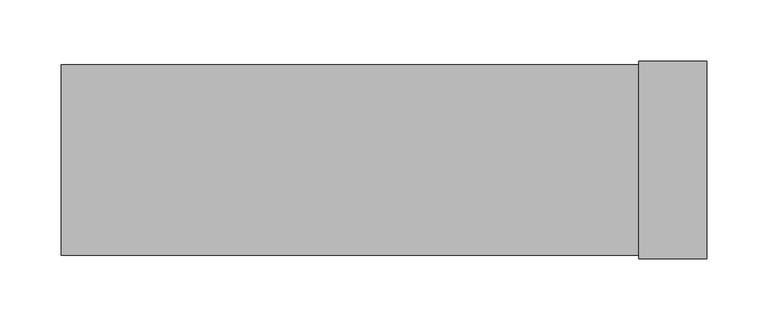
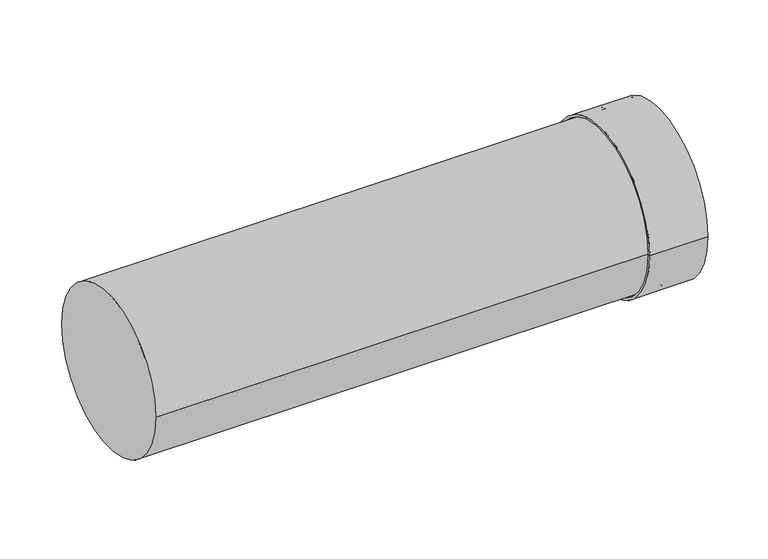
"""IFC4 building model written with IfcOpenShell, lengths in millimetres: duct fitting geometry, NLRS_57_DUF_UN_extension EPS_M&G : ø125 - ø200."""

from ifc_helpers import new_model, si_unit, point, frame, origin, origin_2d, place, context, project, spatial, polyline, circle_curve, trimmed, segment, composite_curve, outline, extrude, source, transform, mapped, element, save
from ifc_brep_helpers import plane_surface, cylinder_surface, revolved_surface, advanced_brep


def duct_fitting_8542f466(model_context):
    return source(origin(), model_context, "Body", "SolidModel", [
        advanced_brep(
        [(473.0, -81.0, 0.0), (473.0, 81.0, 0.0), (529.0, 81.0, 0.0), (529.0, -81.0, 0.0), (473.0, -79.0, 0.0), (473.0, 79.0, 0.0), (500.0, -79.0, 0.0), (500.0, 79.0, 0.0), (500.0, -77.0, 0.0), (500.0, 77.0, 0.0), (502.0, -79.0, 0.0), (502.0, 79.0, 0.0), (502.0, 77.0, 0.0), (502.0, -77.0, 0.0), (529.0, -79.0, 0.0), (529.0, 79.0, 0.0)],
        [
            (0, 1, circle_curve(frame((473.0, 0.0, 0.0), z_axis=(1.0, 0.0, 0.0), x_axis=(0.0, 1.0, 0.0)), 81.0)),
            (1, 2),
            (2, 3, circle_curve(frame((529.0, 0.0, 0.0), z_axis=(-1.0, 0.0, 0.0), x_axis=(0.0, 1.0, 0.0)), 81.0)),
            (3, 0),
            (1, 0, circle_curve(frame((473.0, 0.0, 0.0), z_axis=(1.0, 0.0, 0.0), x_axis=(0.0, 1.0, 0.0)), 81.0)),
            (3, 2, circle_curve(frame((529.0, 0.0, 0.0), z_axis=(-1.0, 0.0, 0.0), x_axis=(0.0, 1.0, 0.0)), 81.0)),
            (4, 5, circle_curve(frame((473.0, 0.0, 0.0), z_axis=(1.0, 0.0, 0.0), x_axis=(0.0, 1.0, 0.0)), 79.0)),
            (5, 1),
            (0, 4),
            (5, 4, circle_curve(frame((473.0, 0.0, 0.0), z_axis=(1.0, 0.0, 0.0), x_axis=(0.0, 1.0, 0.0)), 79.0)),
            (6, 7, circle_curve(frame((500.0, 0.0, 0.0), z_axis=(1.0, 0.0, 0.0), x_axis=(0.0, 1.0, 0.0)), 79.0)),
            (7, 5),
            (4, 6),
            (7, 6, circle_curve(frame((500.0, 0.0, 0.0), z_axis=(1.0, 0.0, 0.0), x_axis=(0.0, 1.0, 0.0)), 79.0)),
            (8, 9, circle_curve(frame((500.0, 0.0, 0.0), z_axis=(1.0, 0.0, 0.0), x_axis=(0.0, 1.0, 0.0)), 77.0)),
            (9, 7),
            (6, 8),
            (9, 8, circle_curve(frame((500.0, 0.0, 0.0), z_axis=(1.0, 0.0, 0.0), x_axis=(0.0, 1.0, 0.0)), 77.0)),
            (10, 11, circle_curve(frame((502.0, 0.0, 0.0), z_axis=(1.0, 0.0, 0.0), x_axis=(0.0, 1.0, 0.0)), 79.0)),
            (11, 12),
            (12, 13, circle_curve(frame((502.0, 0.0, 0.0), z_axis=(-1.0, 0.0, 0.0), x_axis=(0.0, 1.0, 0.0)), 77.0)),
            (13, 10),
            (11, 10, circle_curve(frame((502.0, 0.0, 0.0), z_axis=(1.0, 0.0, 0.0), x_axis=(0.0, 1.0, 0.0)), 79.0)),
            (13, 12, circle_curve(frame((502.0, 0.0, 0.0), z_axis=(-1.0, 0.0, 0.0), x_axis=(0.0, 1.0, 0.0)), 77.0)),
            (14, 15, circle_curve(frame((529.0, 0.0, 0.0), z_axis=(1.0, 0.0, 0.0), x_axis=(0.0, 1.0, 0.0)), 79.0)),
            (15, 11),
            (10, 14),
            (15, 14, circle_curve(frame((529.0, 0.0, 0.0), z_axis=(1.0, 0.0, 0.0), x_axis=(0.0, 1.0, 0.0)), 79.0)),
            (2, 15),
            (14, 3),
            (12, 9),
            (8, 13),
        ],
        [
            cylinder_surface(frame((2476.5, 0.0, 0.0), z_axis=(-1.0, 0.0, 0.0), x_axis=(0.0, 1.0, 0.0)), 81.0),
            plane_surface(frame((473.0, 0.0, 0.0), z_axis=(-1.0, 0.0, 0.0), x_axis=(0.0, 1.0, 0.0))),
            revolved_surface(polyline([(473.0, 79.0, 0.0), (500.0, 79.0, 0.0)]), (2476.5, 0.0, 0.0), (-1.0, 0.0, 0.0)),
            plane_surface(frame((500.0, 0.0, 0.0), z_axis=(-1.0, 0.0, 0.0), x_axis=(0.0, 1.0, 0.0))),
            plane_surface(frame((502.0, 0.0, 0.0), z_axis=(1.0, 0.0, 0.0), x_axis=(0.0, 1.0, 0.0))),
            revolved_surface(polyline([(502.0, 79.0, 0.0), (529.0, 79.0, 0.0)]), (2476.5, 0.0, 0.0), (-1.0, 0.0, 0.0)),
            plane_surface(frame((529.0, 0.0, 0.0), z_axis=(1.0, 0.0, 0.0), x_axis=(0.0, 1.0, 0.0))),
            revolved_surface(polyline([(500.0, 77.0, 0.0), (502.0, 77.0, 0.0)]), (2476.5, 0.0, 0.0), (-1.0, 0.0, 0.0)),
        ],
        [
            (0, [[1, 2, 3, 4]]),
            (0, [[5, -4, 6, -2]]),
            (1, [[7, 8, -1, 9]]),
            (1, [[10, -9, -5, -8]]),
            (2, [[11, 12, -7, 13]]),
            (2, [[14, -13, -10, -12]]),
            (3, [[15, 16, -11, 17]]),
            (3, [[18, -17, -14, -16]]),
            (4, [[19, 20, 21, 22]]),
            (4, [[23, -22, 24, -20]]),
            (5, [[25, 26, -19, 27]]),
            (5, [[28, -27, -23, -26]]),
            (6, [[-3, 29, -25, 30]]),
            (6, [[-6, -30, -28, -29]]),
            (7, [[-21, 31, -15, 32]]),
            (7, [[-24, -32, -18, -31]]),
        ],
    ),
        extrude(outline(composite_curve([segment(trimmed(circle_curve(origin_2d(), 78.0), [point((-78.0, 0.0))], [point((78.0, 0.0))], False, "CARTESIAN"), True, "CONTINUOUS"), segment(trimmed(circle_curve(origin_2d(), 78.0), [point((78.0, 0.0))], [point((-78.0, 0.0))], False, "CARTESIAN"), True, "CONTINUOUS")], self_intersect=False)), frame((0.0, 0.0, 0.0), z_axis=(1.0, 0.0, 0.0), x_axis=(0.0, 1.0, 0.0)), (0.0, 0.0, 1.0), 500.0),
    ])


if __name__ == "__main__":
    model = new_model("IFC4")
    model_context = context("Model", 3, world=origin())
    ifc_project = project(units=[si_unit("LENGTHUNIT", "METRE", prefix="MILLI")], contexts=[model_context])
    site = spatial("IfcSite", under=ifc_project)
    building = spatial("IfcBuilding", under=site)
    placement = place(None, origin())
    duct_fitting_shape = duct_fitting_8542f466(model_context)
    element("IfcDuctFitting", 1, ObjectType="NLRS_57_DUF_UN_extension EPS_M&G : ø125 - ø200", at=placement, inside=building, context=model_context, shape_type="MappedRepresentation", body=[
        mapped(duct_fitting_shape, transform((0.0, 0.0, 0.0), x_axis=(1.0, 0.0, 0.0), y_axis=(0.0, 1.0, 0.0), z_axis=(0.0, 0.0, 1.0))),
    ])
    save(model, "model.ifc")
